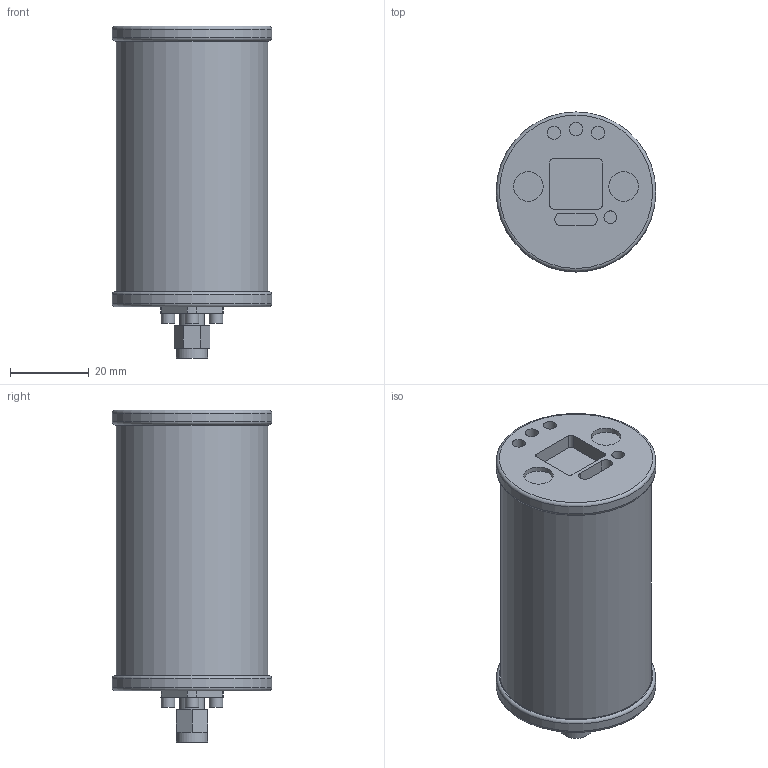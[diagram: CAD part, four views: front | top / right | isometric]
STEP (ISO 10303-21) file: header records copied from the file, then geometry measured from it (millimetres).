
FILE_DESCRIPTION(/* description */ (''),/* implementation_level */ '2;1');
FILE_NAME(/* name */ 'NEWLB478_479_480_3.5mm_SMA_2.step',/* time_stamp */ '2023-10-13T16:33:03-05:00',/* author */ (''),/* organization */ (''),/* preprocessor_version */ 'ST-DEVELOPER v20',/* originating_system */ 'Autodesk Translation Framework v12.9.0.99',/* authorisation */ '');
FILE_SCHEMA (('AUTOMOTIVE_DESIGN { 1 0 10303 214 3 1 1 }'));
Length unit declared in the file: inch
Products named in the file (2): (Unsaved); SMA M v1
Assembly tree (1 placements, depth 2):
  (Unsaved)
    SMA M v1
Bounding box: 40.44 x 40.44 x 84.07 mm (x, y, z)
Volume: 82882.8 mm3; surface area: 12702.3 mm2
Topology: 2 solids, 2 shells, 109 faces, 231 edges, 151 vertices
Faces by surface type: plane 75, cylinder 30, torus 4
Full cylindrical faces by diameter (mm): 2.271 x4, 3.175 x1, 3.354 x2, 3.365 x1, 3.429 x4, 6.35 x2, 7.493 x2, 7.874 x1, 38.354 x1, 40.437 x2
Entity records: 2991 total; most frequent: DIRECTION 530, CARTESIAN_POINT 494, ORIENTED_EDGE 462, EDGE_CURVE 231, AXIS2_PLACEMENT_3D 187, LINE 156, VECTOR 156, VERTEX_POINT 151
